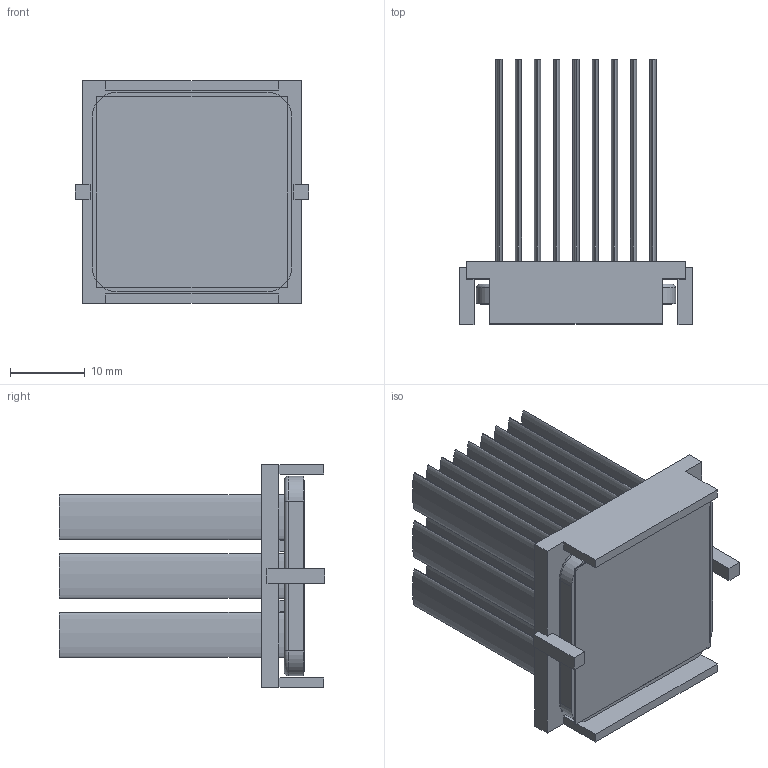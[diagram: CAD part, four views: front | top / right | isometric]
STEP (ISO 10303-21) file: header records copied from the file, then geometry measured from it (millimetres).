
FILE_DESCRIPTION (( 'STEP AP214' ), '1' );
FILE_NAME ('INM27001-33W_2.6+K32.STEP', '2023-02-17T18:36:23', ( '' ), ( '' ), 'SwSTEP 2.0', 'SolidWorks 2020', '' );
FILE_SCHEMA (( 'AUTOMOTIVE_DESIGN' ));
Length unit declared in the file: inch
Products named in the file (1): INM27001-33W_2.6+K32
Bounding box: 31.2 x 35.4 x 29.7 mm (x, y, z)
Volume: 6457.9 mm3; surface area: 14960.8 mm2
Topology: 3 solids, 3 shells, 159 faces, 370 edges, 244 vertices
Faces by surface type: plane 93, bspline 54, cylinder 8, torus 4
Entity records: 6735 total; most frequent: CARTESIAN_POINT 1476, ORIENTED_EDGE 740, DIRECTION 494, EDGE_CURVE 370, VERTEX_POINT 244, LINE 242, VECTOR 242, EDGE_LOOP 188
